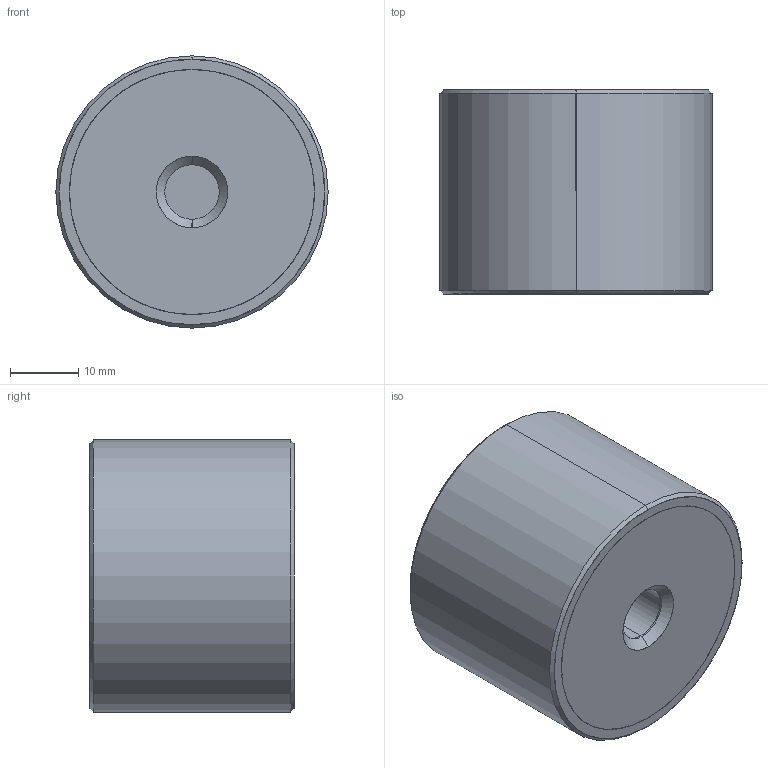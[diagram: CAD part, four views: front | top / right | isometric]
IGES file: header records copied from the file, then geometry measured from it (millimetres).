
Start section: SolidWorks IGES file using analytic representation for surfaces
Global section: file name: E:\WIXROYD 20180701\61080_v2\61080_v2_20180409_IGES\61080.W0401.igs; native system: SolidWorks 2017; preprocessor: SolidWorks 2017; author: liam_; date: 180716.214436; units: millimetre
Bounding box: 40 x 30 x 40 mm (x, y, z)
Surface area: 11127.3 mm2 (no closed solid volume)
Topology: 0 solids, 0 shells, 36 faces, 1000 edges, 1000 vertices
Faces by surface type: revolution 26, bspline 10
